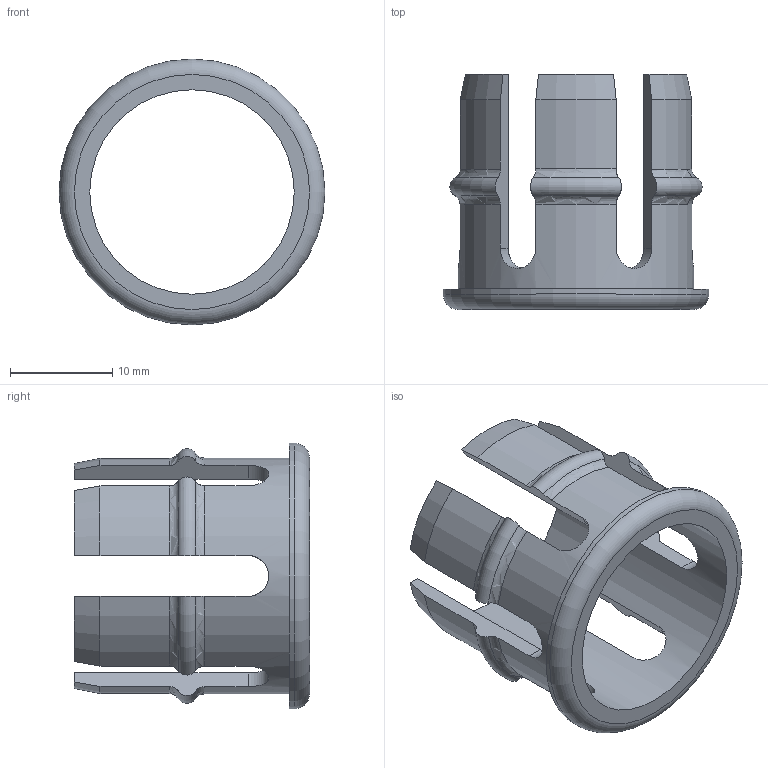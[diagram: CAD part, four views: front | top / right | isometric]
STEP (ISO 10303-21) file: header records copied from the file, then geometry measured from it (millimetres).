
FILE_DESCRIPTION(/* description */ (''),/* implementation_level */ '2;1');
FILE_NAME(/* name */ 'OTB sleeve 20.step',/* time_stamp */ '2026-09-23T16:00:45+03:00',/* author */ (''),/* organization */ (''),/* preprocessor_version */ 'ST-DEVELOPER v20.2',/* originating_system */ 'Autodesk Translation Framework v15.15.0.0',/* authorisation */ '');
FILE_SCHEMA (('AUTOMOTIVE_DESIGN { 1 0 10303 214 3 1 1 }'));
Length unit declared in the file: millimetre
Products named in the file (1): 2026-09-20-08-47-46-814
Bounding box: 26 x 23 x 26 mm (x, y, z)
Volume: 1918.3 mm3; surface area: 2979.3 mm2
Topology: 1 solids, 1 shells, 60 faces, 174 edges, 116 vertices
Faces by surface type: plane 20, torus 19, cylinder 15, cone 6
Full cylindrical faces by diameter (mm): 20 x1, 23.04 x1, 26 x1
Entity records: 2454 total; most frequent: CARTESIAN_POINT 917, ORIENTED_EDGE 348, DIRECTION 283, EDGE_CURVE 174, VERTEX_POINT 116, AXIS2_PLACEMENT_3D 110, LINE 63, VECTOR 63
